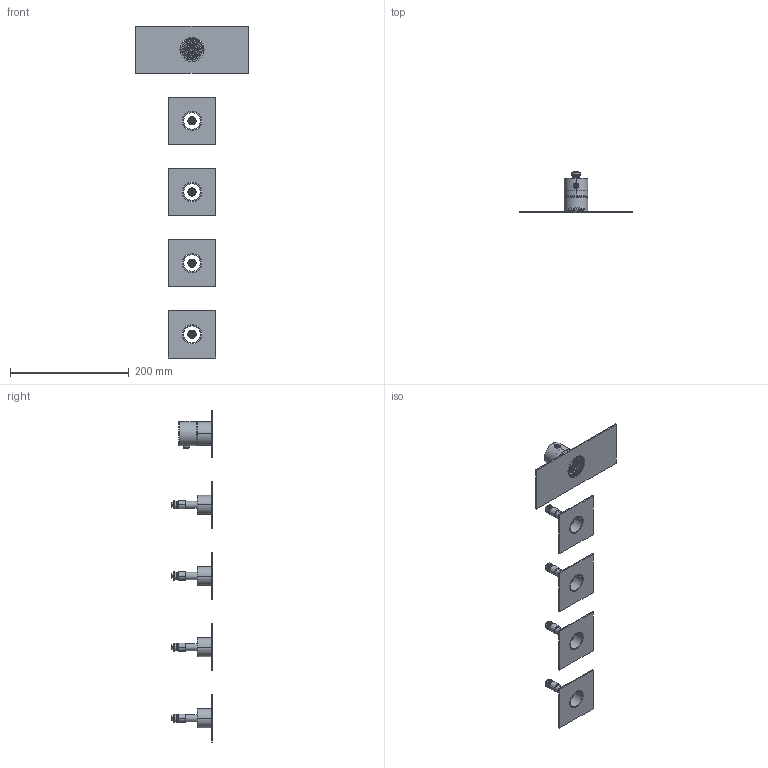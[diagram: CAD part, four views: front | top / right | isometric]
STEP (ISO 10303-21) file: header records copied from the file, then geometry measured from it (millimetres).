
FILE_DESCRIPTION((''),'2;1');
FILE_NAME('3D_SW0001','2026-05-18T10:53:24',('volponeff'),(''),'CREO PARAMETRIC BY PTC INC, 2025443','CREO PARAMETRIC BY PTC INC, 2025443','');
FILE_SCHEMA(('CONFIG_CONTROL_DESIGN'));
Products named in the file (1): 3D_SW0001
Bounding box: 190 x 70 x 560 mm (x, y, z)
Volume: 150266.9 mm3; surface area: 141612.6 mm2
Topology: 16 solids, 16 shells, 1873 faces, 4767 edges, 3036 vertices
Faces by surface type: plane 1103, cylinder 390, cone 207, torus 93, bspline 70, sphere 10
Entity records: 81095 total; most frequent: CARTESIAN_POINT 36966, ORIENTED_EDGE 9518, DIRECTION 8464, EDGE_CURVE 4759, VECTOR 3036, LINE 3036, VERTEX_POINT 3034, AXIS2_PLACEMENT_3D 2714
